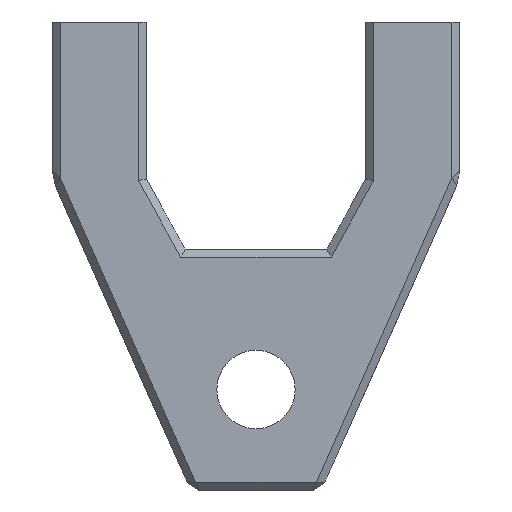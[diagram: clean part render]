
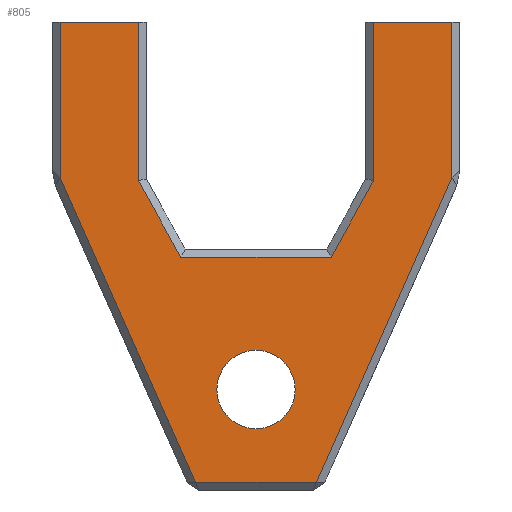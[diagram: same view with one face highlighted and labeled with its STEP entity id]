
A CAD part, front view. The second image highlights one B-rep face of the part: STEP entity #805.
In plain terms, the highlighted planar face has unit normal (0, -1, 0).
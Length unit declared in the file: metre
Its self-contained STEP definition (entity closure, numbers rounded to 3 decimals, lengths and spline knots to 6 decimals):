
#14=LINE('',#1172,#114);
#15=LINE('',#1175,#115);
#16=LINE('',#1177,#116);
#17=LINE('',#1179,#117);
#18=LINE('',#1181,#118);
#19=LINE('',#1183,#119);
#20=LINE('',#1185,#120);
#21=LINE('',#1187,#121);
#22=LINE('',#1189,#122);
#23=LINE('',#1191,#123);
#24=LINE('',#1193,#124);
#25=LINE('',#1195,#125);
#114=VECTOR('',#948,1.);
#115=VECTOR('',#949,1.);
#116=VECTOR('',#950,1.);
#117=VECTOR('',#951,1.);
#118=VECTOR('',#952,1.);
#119=VECTOR('',#953,1.);
#120=VECTOR('',#954,1.);
#121=VECTOR('',#955,1.);
#122=VECTOR('',#956,1.);
#123=VECTOR('',#957,1.);
#124=VECTOR('',#958,1.);
#125=VECTOR('',#959,1.);
#214=PLANE('',#875);
#266=ORIENTED_EDGE('',*,*,#486,.T.);
#267=ORIENTED_EDGE('',*,*,#487,.T.);
#268=ORIENTED_EDGE('',*,*,#488,.F.);
#269=ORIENTED_EDGE('',*,*,#489,.T.);
#270=ORIENTED_EDGE('',*,*,#490,.T.);
#271=ORIENTED_EDGE('',*,*,#491,.T.);
#272=ORIENTED_EDGE('',*,*,#492,.T.);
#273=ORIENTED_EDGE('',*,*,#493,.T.);
#274=ORIENTED_EDGE('',*,*,#494,.F.);
#275=ORIENTED_EDGE('',*,*,#495,.T.);
#276=ORIENTED_EDGE('',*,*,#496,.T.);
#277=ORIENTED_EDGE('',*,*,#497,.T.);
#278=ORIENTED_EDGE('',*,*,#498,.T.);
#486=EDGE_CURVE('',#596,#597,#14,.T.);
#487=EDGE_CURVE('',#597,#598,#15,.T.);
#488=EDGE_CURVE('',#599,#598,#16,.T.);
#489=EDGE_CURVE('',#599,#600,#17,.T.);
#490=EDGE_CURVE('',#600,#601,#18,.T.);
#491=EDGE_CURVE('',#601,#602,#19,.T.);
#492=EDGE_CURVE('',#602,#603,#20,.T.);
#493=EDGE_CURVE('',#603,#604,#21,.T.);
#494=EDGE_CURVE('',#605,#604,#22,.T.);
#495=EDGE_CURVE('',#605,#606,#23,.T.);
#496=EDGE_CURVE('',#606,#607,#24,.T.);
#497=EDGE_CURVE('',#607,#596,#25,.T.);
#498=EDGE_CURVE('',#608,#608,#662,.F.);
#596=VERTEX_POINT('',#1173);
#597=VERTEX_POINT('',#1174);
#598=VERTEX_POINT('',#1176);
#599=VERTEX_POINT('',#1178);
#600=VERTEX_POINT('',#1180);
#601=VERTEX_POINT('',#1182);
#602=VERTEX_POINT('',#1184);
#603=VERTEX_POINT('',#1186);
#604=VERTEX_POINT('',#1188);
#605=VERTEX_POINT('',#1190);
#606=VERTEX_POINT('',#1192);
#607=VERTEX_POINT('',#1194);
#608=VERTEX_POINT('',#1197);
#662=CIRCLE('',#876,0.003175);
#670=EDGE_LOOP('',(#266,#267,#268,#269,#270,#271,#272,#273,#274,#275,#276,
#277));
#671=EDGE_LOOP('',(#278));
#736=FACE_BOUND('',#670,.T.);
#737=FACE_BOUND('',#671,.T.);
#805=ADVANCED_FACE('',(#736,#737),#214,.T.);
#875=AXIS2_PLACEMENT_3D('',#1171,#946,#947);
#876=AXIS2_PLACEMENT_3D('',#1196,#960,#961);
#946=DIRECTION('',(0.,-1.,0.));
#947=DIRECTION('',(0.,0.,-1.));
#948=DIRECTION('',(-0.486,0.,0.874));
#949=DIRECTION('',(0.,0.,1.));
#950=DIRECTION('',(1.,0.,0.));
#951=DIRECTION('',(0.,0.,-1.));
#952=DIRECTION('',(0.406,0.,-0.914));
#953=DIRECTION('',(1.,0.,0.));
#954=DIRECTION('',(0.406,0.,0.914));
#955=DIRECTION('',(0.,0.,1.));
#956=DIRECTION('',(1.,0.,0.));
#957=DIRECTION('',(0.,0.,-1.));
#958=DIRECTION('',(-0.486,0.,-0.874));
#959=DIRECTION('',(-1.,0.,0.));
#960=DIRECTION('',(0.,-1.,0.));
#961=DIRECTION('',(0.,0.,-1.));
#1171=CARTESIAN_POINT('',(0.0127,0.01524,-0.0127));
#1172=CARTESIAN_POINT('',(-0.004353,0.01524,-0.022174));
#1173=CARTESIAN_POINT('',(-0.006089,0.01524,-0.01905));
#1174=CARTESIAN_POINT('',(-0.009525,0.01524,-0.012865));
#1175=CARTESIAN_POINT('',(-0.009525,0.01524,-0.0127));
#1176=CARTESIAN_POINT('',(-0.009525,0.01524,0.));
#1177=CARTESIAN_POINT('',(-0.0127,0.01524,0.));
#1178=CARTESIAN_POINT('',(-0.015875,0.01524,0.));
#1179=CARTESIAN_POINT('',(-0.015875,0.01524,-0.0127));
#1180=CARTESIAN_POINT('',(-0.015875,0.01524,-0.012565));
#1181=CARTESIAN_POINT('',(-0.011108,0.01524,-0.023286));
#1182=CARTESIAN_POINT('',(-0.004887,0.01524,-0.037276));
#1183=CARTESIAN_POINT('',(0.0127,0.01524,-0.037276));
#1184=CARTESIAN_POINT('',(0.004887,0.01524,-0.037276));
#1185=CARTESIAN_POINT('',(0.015301,0.01524,-0.013856));
#1186=CARTESIAN_POINT('',(0.015875,0.01524,-0.012565));
#1187=CARTESIAN_POINT('',(0.015875,0.01524,-0.0127));
#1188=CARTESIAN_POINT('',(0.015875,0.01524,0.));
#1189=CARTESIAN_POINT('',(0.0127,0.01524,0.));
#1190=CARTESIAN_POINT('',(0.009525,0.01524,0.));
#1191=CARTESIAN_POINT('',(0.009525,0.01524,-0.0127));
#1192=CARTESIAN_POINT('',(0.009525,0.01524,-0.012865));
#1193=CARTESIAN_POINT('',(0.010344,0.01524,-0.011391));
#1194=CARTESIAN_POINT('',(0.006089,0.01524,-0.01905));
#1195=CARTESIAN_POINT('',(0.0127,0.01524,-0.01905));
#1196=CARTESIAN_POINT('',(0.,0.01524,-0.029776));
#1197=CARTESIAN_POINT('',(0.,0.01524,-0.032951));
